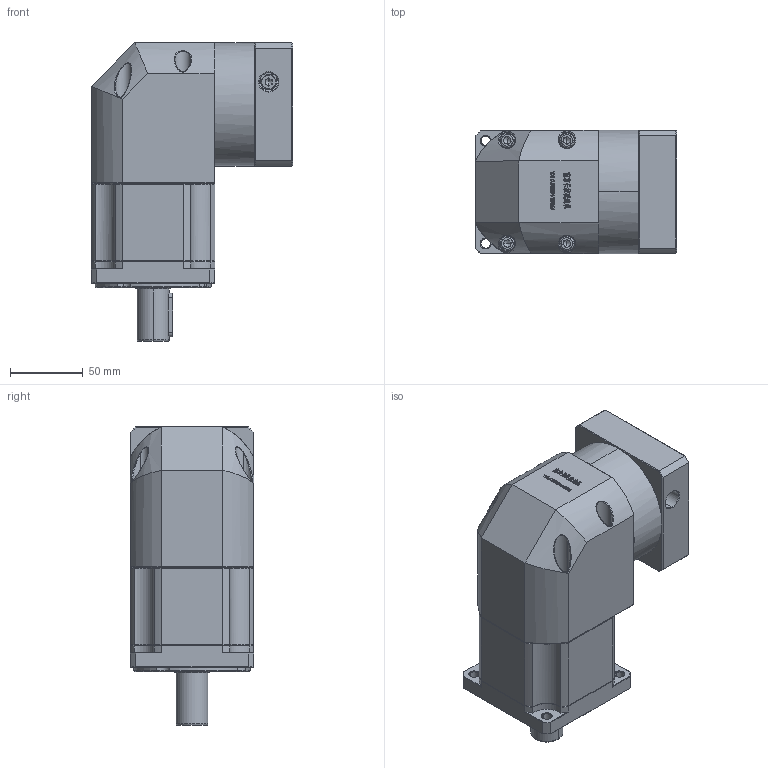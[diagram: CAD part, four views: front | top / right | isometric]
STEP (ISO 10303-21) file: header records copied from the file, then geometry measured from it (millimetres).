
FILE_DESCRIPTION (( 'STEP AP214' ), '1' );
FILE_NAME ('ZBR90-D22-L2-19-80-100-M6.STEP', '2022-05-07T14:48:25', ( '' ), ( 'Microsoft' ), 'SwSTEP 2.0', 'SolidWorks 2016', '' );
FILE_SCHEMA (( 'AUTOMOTIVE_DESIGN' ));
Length unit declared in the file: millimetre
Products named in the file (1): ZBR90-D22-L2-19-80-100-M6
Bounding box: 138.6 x 85 x 205.5 mm (x, y, z)
Volume: 1312203.3 mm3; surface area: 136612 mm2
Topology: 5 solids, 5 shells, 3009 faces, 7965 edges, 5092 vertices
Faces by surface type: plane 1575, bspline 603, cylinder 449, cone 356, torus 26
Entity records: 163336 total; most frequent: CARTESIAN_POINT 60547, ORIENTED_EDGE 15854, DIRECTION 12104, EDGE_CURVE 7927, LINE 5276, VECTOR 5276, VERTEX_POINT 5092, AXIS2_PLACEMENT_3D 3414
